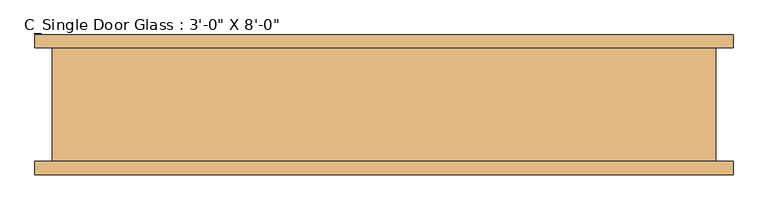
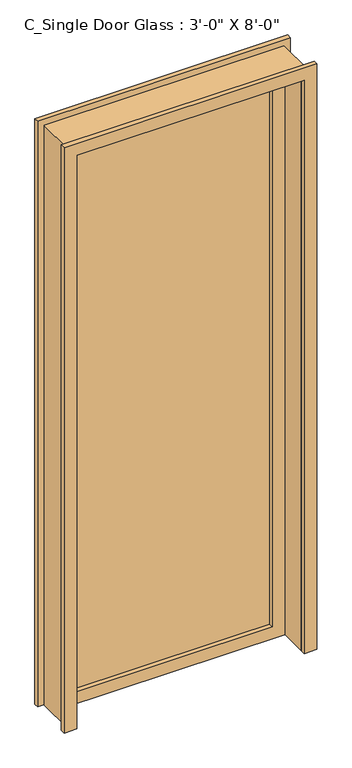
"""IFC4 building model written with IfcOpenShell, lengths in millimetres: door geometry."""

from ifc_helpers import new_model, si_unit, frame, origin, place, context, project, spatial, polyline, outline, extrude, source, transform, mapped, element, save


def door_41e090a7(model_context):
    return source(origin(), model_context, "Body", "SweptSolid", [
        extrude(outline(polyline([(-406.4, 50.8), (-406.4, 63.5), (406.4, 63.5), (406.4, 50.8), (-406.4, 50.8)])), frame((0.0, 0.0, 50.8), z_axis=(0.0, 0.0, 1.0), x_axis=(1.0, 0.0, 0.0)), (0.0, 0.0, 1.0), 2336.8),
        extrude(outline(polyline([(2438.4, 457.2), (2438.4, -457.2), (0.0, -457.2), (0.0, 457.2), (2438.4, 457.2)]), holes=[polyline([(2387.6, -406.4), (2387.6, 406.4), (50.8, 406.4), (50.8, -406.4), (2387.6, -406.4)])]), frame((0.0, 31.75, 0.0), z_axis=(0.0, 1.0, 0.0), x_axis=(0.0, 0.0, 1.0)), (0.0, 0.0, 1.0), 50.8),
        extrude(outline(polyline([(2438.4, -457.2), (2438.4, 457.2), (0.0, 457.2), (0.0, 508.0), (2489.2, 508.0), (2489.2, -508.0), (0.0, -508.0), (0.0, -457.2), (2438.4, -457.2)])), frame((0.0, 82.55, 0.0), z_axis=(0.0, 1.0, 0.0), x_axis=(0.0, 0.0, 1.0)), (0.0, 0.0, 1.0), 19.05),
        extrude(outline(polyline([(2438.4, -457.2), (2438.4, 457.2), (0.0, 457.2), (0.0, 508.0), (2489.2, 508.0), (2489.2, -508.0), (0.0, -508.0), (0.0, -457.2), (2438.4, -457.2)])), frame((0.0, -101.6, 0.0), z_axis=(0.0, 1.0, 0.0), x_axis=(0.0, 0.0, 1.0)), (0.0, 0.0, 1.0), 19.05),
        extrude(outline(polyline([(0.0, -457.2), (2438.4, -457.2), (2438.4, 457.2), (0.0, 457.2), (0.0, 482.6), (2463.8, 482.6), (2463.8, -482.6), (0.0, -482.6), (0.0, -457.2)])), frame((0.0, -82.55, 0.0), z_axis=(0.0, 1.0, 0.0), x_axis=(0.0, 0.0, 1.0)), (0.0, 0.0, 1.0), 165.1),
    ])


if __name__ == "__main__":
    model = new_model("IFC4")
    model_context = context("Model", 3, world=origin())
    ifc_project = project(units=[si_unit("LENGTHUNIT", "METRE", prefix="MILLI")], contexts=[model_context])
    site = spatial("IfcSite", under=ifc_project)
    building = spatial("IfcBuilding", under=site)
    placement = place(None, origin())
    door_shape = door_41e090a7(model_context)
    element("IfcDoor", 1, ObjectType="C_Single Door Glass : 3'-0\" X 8'-0\"", at=placement, inside=building, context=model_context, shape_type="MappedRepresentation", body=[
        mapped(door_shape, transform((0.0, 0.0, 0.0), x_axis=(1.0, 0.0, 0.0), y_axis=(0.0, 1.0, 0.0), z_axis=(0.0, 0.0, 1.0))),
    ])
    save(model, "model.ifc")
